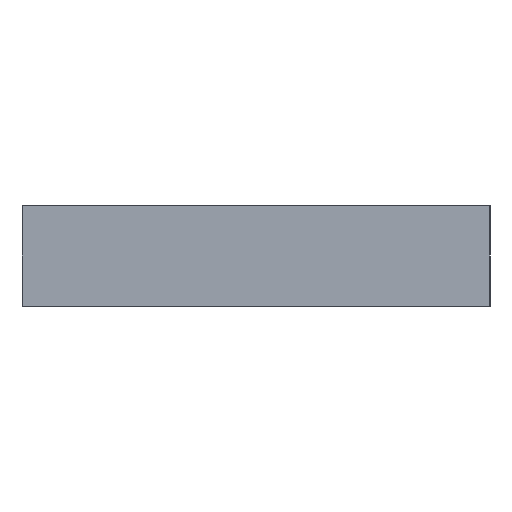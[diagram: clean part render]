
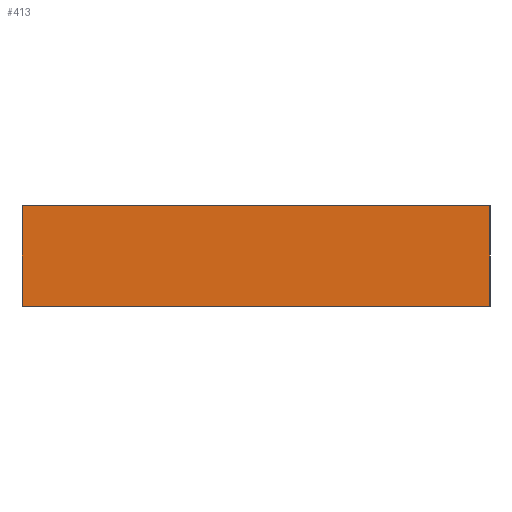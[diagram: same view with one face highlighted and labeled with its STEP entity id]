
A CAD part, front view. The second image highlights one B-rep face of the part: STEP entity #413.
In plain terms, the highlighted planar face has unit normal (0, -1, 0).
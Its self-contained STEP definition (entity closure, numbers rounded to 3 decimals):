
#37 = DIRECTION ( 'NONE',  ( 0., 0., -1. ) ) ;
#47 = CARTESIAN_POINT ( 'NONE',  ( -7., -358.5, 3. ) ) ;
#63 = AXIS2_PLACEMENT_3D ( 'NONE', #451, #274, #315 ) ;
#66 = EDGE_CURVE ( 'NONE', #356, #84, #236, .T. ) ;
#84 = VERTEX_POINT ( 'NONE', #117 ) ;
#88 = CARTESIAN_POINT ( 'NONE',  ( 7., -358.5, 3. ) ) ;
#99 = VERTEX_POINT ( 'NONE', #125 ) ;
#107 = VECTOR ( 'NONE', #235, 1000. ) ;
#117 = CARTESIAN_POINT ( 'NONE',  ( -7., -358.5, 0. ) ) ;
#125 = CARTESIAN_POINT ( 'NONE',  ( 7., -358.5, 0. ) ) ;
#132 = EDGE_CURVE ( 'NONE', #84, #99, #442, .T. ) ;
#133 = PLANE ( 'NONE',  #63 ) ;
#148 = VECTOR ( 'NONE', #37, 1000. ) ;
#153 = EDGE_LOOP ( 'NONE', ( #426, #337, #361, #238 ) ) ;
#234 = EDGE_CURVE ( 'NONE', #356, #294, #368, .T. ) ;
#235 = DIRECTION ( 'NONE',  ( 0., 0., -1. ) ) ;
#236 = LINE ( 'NONE', #400, #148 ) ;
#238 = ORIENTED_EDGE ( 'NONE', *, *, #66, .T. ) ;
#251 = VECTOR ( 'NONE', #424, 1000. ) ;
#274 = DIRECTION ( 'NONE',  ( 0., 1., 0. ) ) ;
#288 = CARTESIAN_POINT ( 'NONE',  ( 0., -358.5, 0. ) ) ;
#293 = CARTESIAN_POINT ( 'NONE',  ( 0., -358.5, 3. ) ) ;
#294 = VERTEX_POINT ( 'NONE', #88 ) ;
#310 = LINE ( 'NONE', #313, #107 ) ;
#313 = CARTESIAN_POINT ( 'NONE',  ( 7., -358.5, 3. ) ) ;
#315 = DIRECTION ( 'NONE',  ( 0., 0., 1. ) ) ;
#334 = DIRECTION ( 'NONE',  ( 1., 0., 0. ) ) ;
#337 = ORIENTED_EDGE ( 'NONE', *, *, #392, .F. ) ;
#356 = VERTEX_POINT ( 'NONE', #47 ) ;
#361 = ORIENTED_EDGE ( 'NONE', *, *, #234, .F. ) ;
#368 = LINE ( 'NONE', #293, #251 ) ;
#370 = VECTOR ( 'NONE', #334, 1000. ) ;
#392 = EDGE_CURVE ( 'NONE', #294, #99, #310, .T. ) ;
#400 = CARTESIAN_POINT ( 'NONE',  ( -7., -358.5, 3. ) ) ;
#413 = ADVANCED_FACE ( 'NONE', ( #415 ), #133, .F. ) ;
#415 = FACE_OUTER_BOUND ( 'NONE', #153, .T. ) ;
#424 = DIRECTION ( 'NONE',  ( 1., 0., 0. ) ) ;
#426 = ORIENTED_EDGE ( 'NONE', *, *, #132, .T. ) ;
#442 = LINE ( 'NONE', #288, #370 ) ;
#451 = CARTESIAN_POINT ( 'NONE',  ( 0., -358.5, 3. ) ) ;
